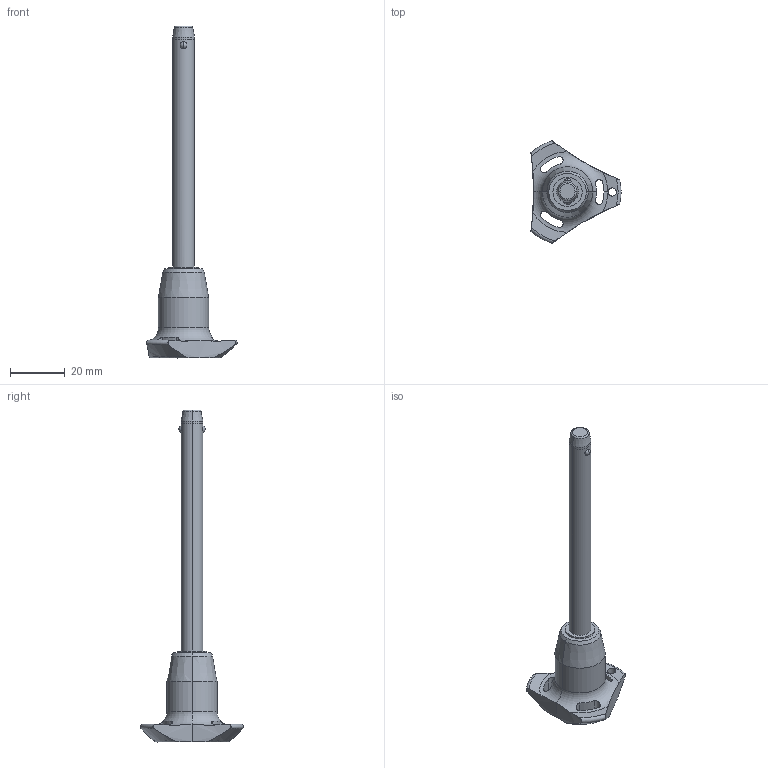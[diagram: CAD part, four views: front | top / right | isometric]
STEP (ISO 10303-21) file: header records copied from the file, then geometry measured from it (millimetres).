
FILE_DESCRIPTION (( 'STEP AP203' ), '1' );
FILE_NAME ('QR1736.M08-080-T.step', '2025-11-13T11:56:29', ( '' ), ( '' ), 'SwSTEP 2.0', 'SolidWorks 2019', '' );
FILE_SCHEMA (( 'CONFIG_CONTROL_DESIGN' ));
Length unit declared in the file: millimetre
Products named in the file (1): QR1736.M08-080-T
Bounding box: 33 x 37.51 x 121.5 mm (x, y, z)
Volume: 13999 mm3; surface area: 5994.5 mm2
Topology: 1 solids, 1 shells, 68 faces, 180 edges, 113 vertices
Faces by surface type: cylinder 32, cone 14, torus 11, sphere 6, plane 5
Entity records: 2811 total; most frequent: CARTESIAN_POINT 1071, ORIENTED_EDGE 360, DIRECTION 347, EDGE_CURVE 180, AXIS2_PLACEMENT_3D 154, VERTEX_POINT 113, CIRCLE 85, EDGE_LOOP 75
